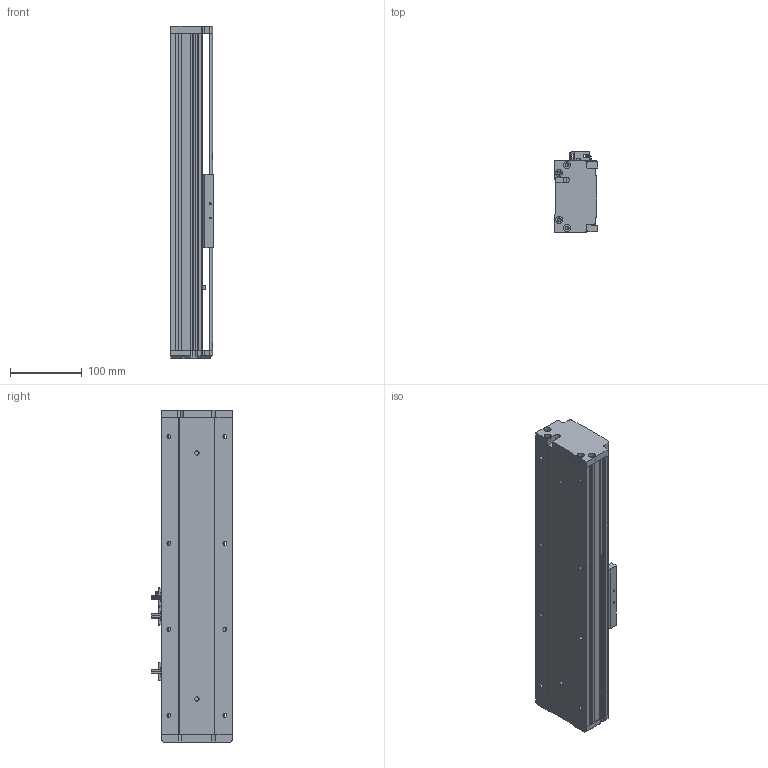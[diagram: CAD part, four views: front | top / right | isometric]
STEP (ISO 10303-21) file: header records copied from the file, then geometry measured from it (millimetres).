
FILE_DESCRIPTION (( 'STEP AP214' ), '1' );
FILE_NAME ('KSD100S-S100-M-CM.STEP', '2019-08-29T08:20:40', ( '微软用户' ), ( '微软中国' ), 'SwSTEP 2.0', 'SolidWorks 2014', '' );
FILE_SCHEMA (( 'AUTOMOTIVE_DESIGN' ));
Length unit declared in the file: millimetre
Products named in the file (8): 覜茼え100遵圉猾敕; U倰嫖萇EEㄜSX672; 100宽防尘板丝杆100行程电机内装; 100宽马达安装板-电机内装; 100宽滚珠螺姆安装板半封闭; 100遵傷啣; 100宽底板半封闭丝杆100行程电机内装; KSD100S-S100-M-CM
Assembly tree (9 placements, depth 2):
  KSD100S-S100-M-CM
    100宽底板半封闭丝杆100行程电机内装
    100遵傷啣
    100宽滚珠螺姆安装板半封闭
    100宽马达安装板-电机内装
    100宽防尘板丝杆100行程电机内装
    U倰嫖萇EEㄜSX672  x3
    覜茼え100遵圉猾敕
Bounding box: 60 x 113.7 x 463 mm (x, y, z)
Volume: 998633.7 mm3; surface area: 359954 mm2
Topology: 9 solids, 9 shells, 919 faces, 2594 edges, 1653 vertices
Faces by surface type: plane 428, cylinder 402, cone 89
Entity records: 30388 total; most frequent: CARTESIAN_POINT 5610, DIRECTION 4007, ORIENTED_EDGE 3912, EDGE_CURVE 1956, AXIS2_PLACEMENT_3D 1414, VERTEX_POINT 1277, LINE 1179, VECTOR 1179
